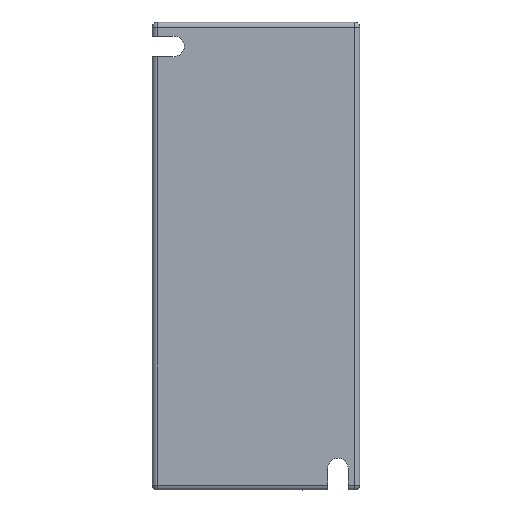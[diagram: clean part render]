
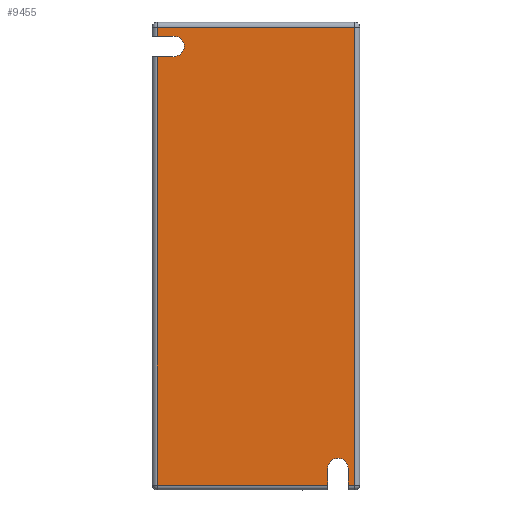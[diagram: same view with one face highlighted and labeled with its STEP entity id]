
A CAD part, front view. The second image highlights one B-rep face of the part: STEP entity #9455.
In plain terms, the highlighted planar face has unit normal (0, -1, 0).
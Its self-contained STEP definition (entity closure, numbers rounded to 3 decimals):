
#1782=DIRECTION('',(0.,0.,1.));
#1783=VECTOR('',#1782,3.5);
#1784=CARTESIAN_POINT('',(23.243,-3.608,
-86.062));
#1785=LINE('',#1784,#1783);
#1797=DIRECTION('',(-1.,0.,0.));
#1798=VECTOR('',#1797,3.5);
#1799=CARTESIAN_POINT('',(-8.657,-3.608,
7.038));
#1800=LINE('',#1799,#1798);
#1804=DIRECTION('',(0.,0.,1.));
#1805=VECTOR('',#1804,3.5);
#1806=CARTESIAN_POINT('',(27.443,-3.608,
-86.062));
#1807=LINE('',#1806,#1805);
#1811=CARTESIAN_POINT('',(25.343,-3.608,
-82.562));
#1812=DIRECTION('',(0.,-1.,0.));
#1813=DIRECTION('',(1.,0.,0.));
#1814=AXIS2_PLACEMENT_3D('',#1811,#1812,#1813);
#1819=CARTESIAN_POINT('',(-8.657,-3.608,
4.938));
#1820=DIRECTION('',(0.,-1.,0.));
#1821=DIRECTION('',(0.,0.,-1.));
#1822=AXIS2_PLACEMENT_3D('',#1819,#1820,#1821);
#1827=CARTESIAN_POINT('',(-8.657,-3.608,
4.938));
#1828=DIRECTION('',(0.,-1.,0.));
#1829=DIRECTION('',(1.,0.,0.));
#1830=AXIS2_PLACEMENT_3D('',#1827,#1828,#1829);
#1864=DIRECTION('',(-1.,0.,0.));
#1865=VECTOR('',#1864,3.5);
#1866=CARTESIAN_POINT('',(-8.657,-3.608,
2.838));
#1867=LINE('',#1866,#1865);
#1886=DIRECTION('',(0.,0.,-1.));
#1887=VECTOR('',#1886,88.9);
#1888=CARTESIAN_POINT('',(-12.157,-3.608,
2.838));
#1889=LINE('',#1888,#1887);
#1931=DIRECTION('',(1.,0.,0.));
#1932=VECTOR('',#1931,35.4);
#1933=CARTESIAN_POINT('',(-12.157,-3.608,
-86.062));
#1934=LINE('',#1933,#1932);
#5540=DIRECTION('',(1.,0.,0.));
#5541=VECTOR('',#5540,1.4);
#5542=CARTESIAN_POINT('',(27.443,-3.608,
-86.062));
#5543=LINE('',#5542,#5541);
#5578=DIRECTION('',(0.,0.,1.));
#5579=VECTOR('',#5578,95.);
#5580=CARTESIAN_POINT('',(28.843,-3.608,
-86.062));
#5581=LINE('',#5580,#5579);
#5981=DIRECTION('',(-1.,0.,0.));
#5982=VECTOR('',#5981,41.);
#5983=CARTESIAN_POINT('',(28.843,-3.608,8.938));
#5984=LINE('',#5983,#5982);
#6019=DIRECTION('',(0.,0.,-1.));
#6020=VECTOR('',#6019,1.9);
#6021=CARTESIAN_POINT('',(-12.157,-3.608,
8.938));
#6022=LINE('',#6021,#6020);
#7415=CARTESIAN_POINT('',(23.243,-3.608,
-86.062));
#7416=CARTESIAN_POINT('',(23.243,-3.608,
-82.562));
#7417=VERTEX_POINT('',#7415);
#7418=VERTEX_POINT('',#7416);
#7419=CARTESIAN_POINT('',(-8.657,-3.608,
7.038));
#7420=CARTESIAN_POINT('',(-12.157,-3.608,
7.038));
#7421=VERTEX_POINT('',#7419);
#7422=VERTEX_POINT('',#7420);
#7423=CARTESIAN_POINT('',(-12.157,-3.608,
8.938));
#7424=VERTEX_POINT('',#7423);
#7425=CARTESIAN_POINT('',(28.843,-3.608,8.938));
#7426=VERTEX_POINT('',#7425);
#7427=CARTESIAN_POINT('',(28.843,-3.608,
-86.062));
#7428=VERTEX_POINT('',#7427);
#7429=CARTESIAN_POINT('',(27.443,-3.608,
-86.062));
#7430=VERTEX_POINT('',#7429);
#7431=CARTESIAN_POINT('',(27.443,-3.608,
-82.562));
#7432=VERTEX_POINT('',#7431);
#7433=CARTESIAN_POINT('',(-12.157,-3.608,
-86.062));
#7434=VERTEX_POINT('',#7433);
#7435=CARTESIAN_POINT('',(-12.157,-3.608,
2.838));
#7436=VERTEX_POINT('',#7435);
#7437=CARTESIAN_POINT('',(-8.657,-3.608,
2.838));
#7438=VERTEX_POINT('',#7437);
#7439=CARTESIAN_POINT('',(-6.557,-3.608,
4.938));
#7440=VERTEX_POINT('',#7439);
#9423=CARTESIAN_POINT('',(8.343,-3.608,
-38.562));
#9424=DIRECTION('',(0.,1.,0.));
#9425=DIRECTION('',(1.,0.,0.));
#9426=AXIS2_PLACEMENT_3D('',#9423,#9424,#9425);
#9427=PLANE('',#9426);
#9429=ORIENTED_EDGE('',*,*,#9428,.T.);
#9431=ORIENTED_EDGE('',*,*,#9430,.F.);
#9433=ORIENTED_EDGE('',*,*,#9432,.F.);
#9435=ORIENTED_EDGE('',*,*,#9434,.F.);
#9437=ORIENTED_EDGE('',*,*,#9436,.F.);
#9439=ORIENTED_EDGE('',*,*,#9438,.T.);
#9441=ORIENTED_EDGE('',*,*,#9440,.T.);
#9442=ORIENTED_EDGE('',*,*,#9412,.F.);
#9444=ORIENTED_EDGE('',*,*,#9443,.F.);
#9446=ORIENTED_EDGE('',*,*,#9445,.F.);
#9448=ORIENTED_EDGE('',*,*,#9447,.F.);
#9450=ORIENTED_EDGE('',*,*,#9449,.T.);
#9452=ORIENTED_EDGE('',*,*,#9451,.T.);
#9453=EDGE_LOOP('',(#9429,#9431,#9433,#9435,#9437,#9439,#9441,#9442,#9444,#9446,
#9448,#9450,#9452));
#9454=FACE_OUTER_BOUND('',#9453,.F.);
#1815=CIRCLE('',#1814,2.1);
#1823=CIRCLE('',#1822,2.1);
#1831=CIRCLE('',#1830,2.1);
#9412=EDGE_CURVE('',#7417,#7418,#1785,.T.);
#9428=EDGE_CURVE('',#7421,#7422,#1800,.T.);
#9430=EDGE_CURVE('',#7424,#7422,#6022,.T.);
#9432=EDGE_CURVE('',#7426,#7424,#5984,.T.);
#9434=EDGE_CURVE('',#7428,#7426,#5581,.T.);
#9436=EDGE_CURVE('',#7430,#7428,#5543,.T.);
#9438=EDGE_CURVE('',#7430,#7432,#1807,.T.);
#9440=EDGE_CURVE('',#7432,#7418,#1815,.T.);
#9443=EDGE_CURVE('',#7434,#7417,#1934,.T.);
#9445=EDGE_CURVE('',#7436,#7434,#1889,.T.);
#9447=EDGE_CURVE('',#7438,#7436,#1867,.T.);
#9449=EDGE_CURVE('',#7438,#7440,#1823,.T.);
#9451=EDGE_CURVE('',#7440,#7421,#1831,.T.);
#9455=ADVANCED_FACE('',(#9454),#9427,.F.);
